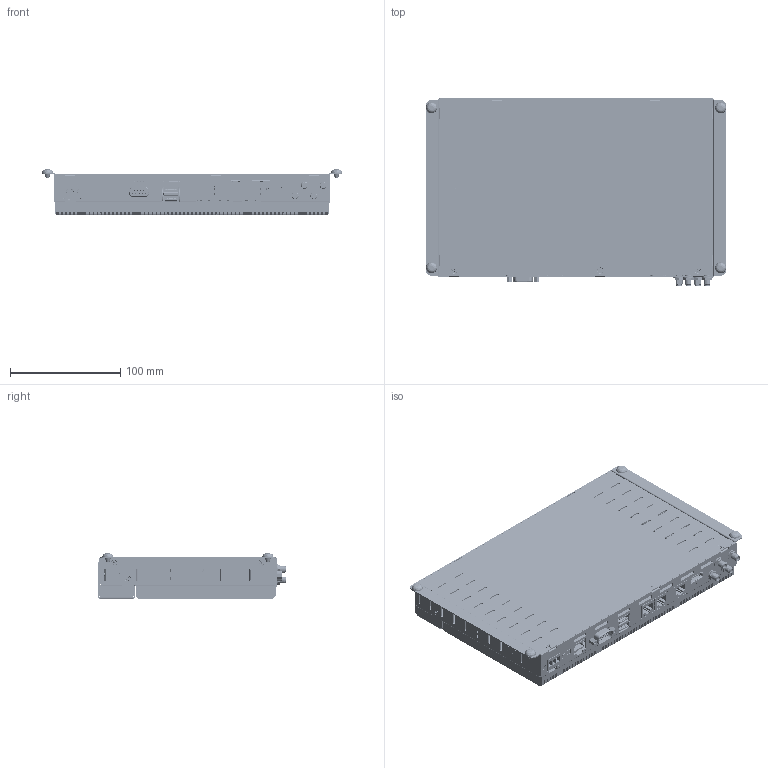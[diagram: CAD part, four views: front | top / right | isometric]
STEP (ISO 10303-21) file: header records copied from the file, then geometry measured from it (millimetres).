
FILE_DESCRIPTION((''),'2;1');
FILE_NAME('EC4C-100','2026-06-02T13:14:38',('gijyu181'),(''),'CREO PARAMETRIC BY PTC INC, 2018050','CREO PARAMETRIC BY PTC INC, 2018050','');
FILE_SCHEMA(('CONFIG_CONTROL_DESIGN','SHAPE_APPEARANCE_LAYERS_GROUPS'));
Products named in the file (1): EC4C-100
Bounding box: 272 x 170.54 x 40.9 mm (x, y, z)
Volume: 514677 mm3; surface area: 484432.6 mm2
Topology: 25 solids, 69 shells, 25710 faces, 75306 edges, 49739 vertices
Faces by surface type: plane 18161, cylinder 5493, extrusion 1393, cone 271, bspline 180, torus 127, sphere 73, revolution 12
Entity records: 982326 total; most frequent: CARTESIAN_POINT 178715, ORIENTED_EDGE 149641, DIRECTION 132278, EDGE_CURVE 75232, VECTOR 61022, LINE 59629, VERTEX_POINT 49740, AXIS2_PLACEMENT_3D 35622
